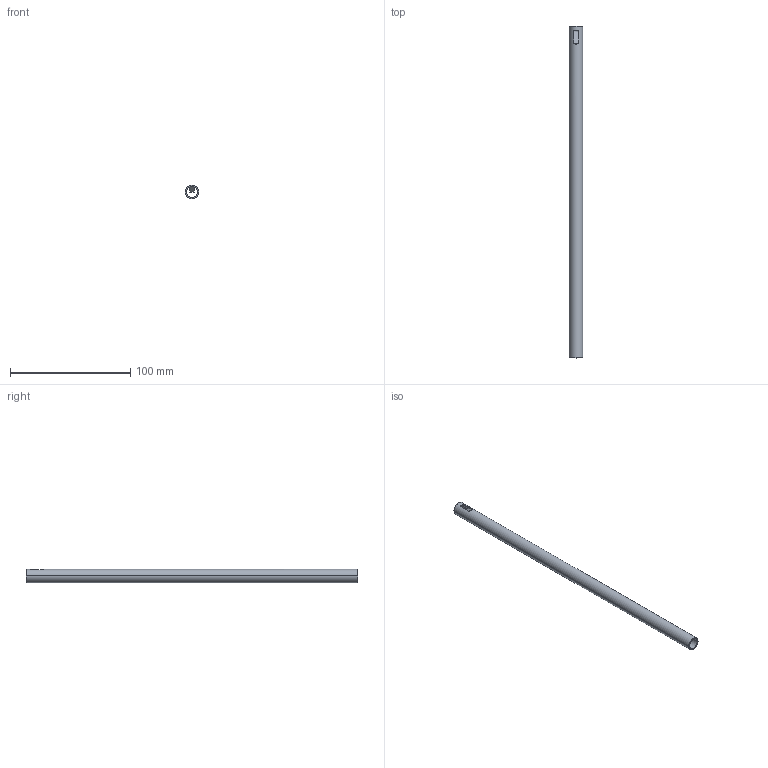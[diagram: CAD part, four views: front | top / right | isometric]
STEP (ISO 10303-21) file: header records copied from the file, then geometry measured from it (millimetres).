
FILE_DESCRIPTION (( 'STEP AP214' ), '1' );
FILE_NAME ('Relingsrohr_2S-Rundrel_INOX_PP10700100_300.step', '2010-09-07T12:59:27', ( 'grass' ), ( '' ), 'SwSTEP 2.0', 'SolidWorks 2010', '' );
FILE_SCHEMA (( 'AUTOMOTIVE_DESIGN' ));
Length unit declared in the file: millimetre
Products named in the file (1): Relingsrohr_2S-Rundrel_INOX_PP10700100_300
Bounding box: 11 x 276 x 11 mm (x, y, z)
Volume: 8668.6 mm3; surface area: 17444.9 mm2
Topology: 1 solids, 1 shells, 14 faces, 34 edges, 22 vertices
Faces by surface type: plane 10, cylinder 4
Entity records: 476 total; most frequent: CARTESIAN_POINT 77, DIRECTION 72, ORIENTED_EDGE 68, EDGE_CURVE 34, AXIS2_PLACEMENT_3D 25, LINE 22, VECTOR 22, VERTEX_POINT 22
